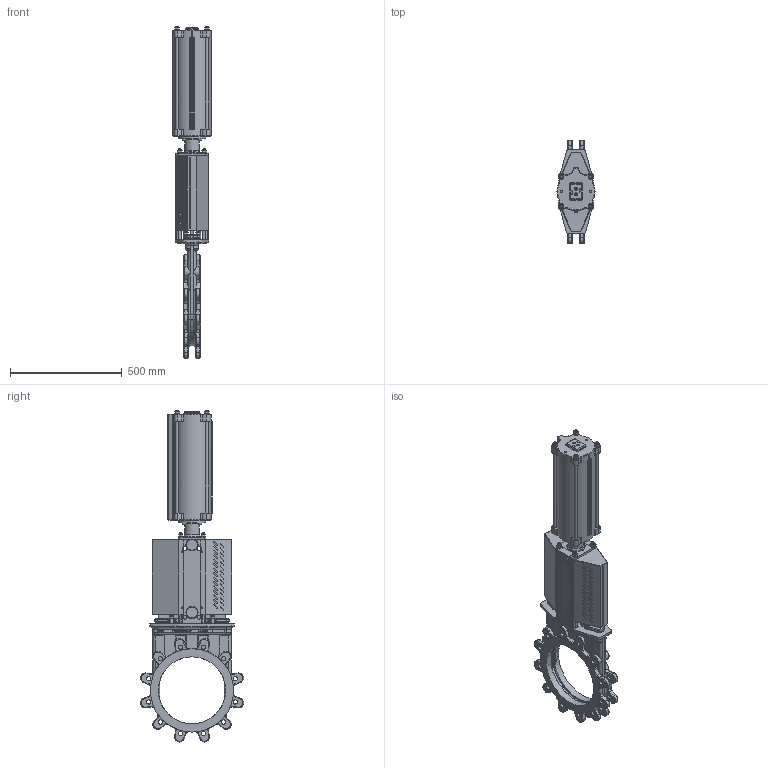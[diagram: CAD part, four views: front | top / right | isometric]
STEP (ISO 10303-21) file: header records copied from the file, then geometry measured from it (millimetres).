
FILE_DESCRIPTION(/* description */ (''),/* implementation_level */ '2;1');
FILE_NAME(/* name */ 'F:\Emir\3D-block special\WB\WB14E-DN300-PN10-FRSC160-323M.stp',/* time_stamp */ '2018-05-29T08:55:23+02:00',/* author */ ('emimus'),/* organization */ (''),/* preprocessor_version */ 'ST-DEVELOPER v17',/* originating_system */ 'Autodesk Inventor 2018',/* authorisation */ '');
FILE_SCHEMA (('CONFIG_CONTROL_DESIGN'));
Products named in the file (1): WB14E-DN300-PN10-FRSC160-323M
Bounding box: 170 x 461.28 x 1483.64 mm (x, y, z)
Volume: 11495456.8 mm3; surface area: 2844106.7 mm2
Topology: 1 solids, 1 shells, 3707 faces, 9869 edges, 6146 vertices
Faces by surface type: plane 1455, cylinder 1031, bspline 575, torus 345, cone 205, sphere 96
Full cylindrical faces by diameter (mm): 4 x6, 4.134 x4, 4.2 x17, 4.5 x4, 4.917 x4, 7 x1, 8 x2, 8.376 x2, 9.5 x4, 10 x11, 10.106 x4, 11.445 x2, 12 x24, 13 x17, 15 x4, 16 x6, 17.7 x1, 18 x12, 19.177 x24, 20 x3, 24 x12, 28 x4, 30 x1, 30.1 x2, 34 x1, 36 x1, 36.4 x1, 38 x1, 40 x4, 44 x4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
Entity records: 130159 total; most frequent: CARTESIAN_POINT 41387, ORIENTED_EDGE 19468, DIRECTION 17390, EDGE_CURVE 9734, AXIS2_PLACEMENT_3D 6500, VERTEX_POINT 6146, LINE 4390, VECTOR 4390
